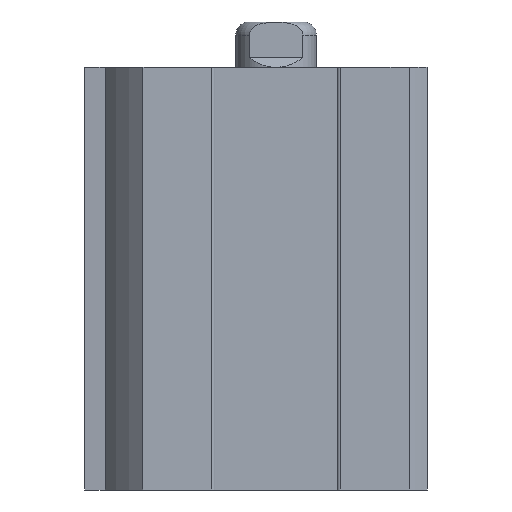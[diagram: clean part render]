
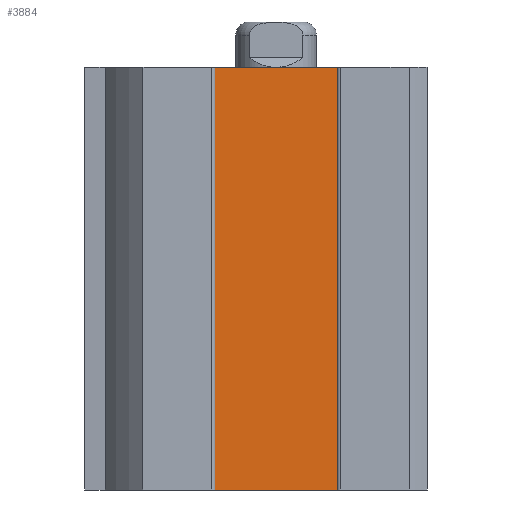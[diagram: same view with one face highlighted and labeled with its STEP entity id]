
A CAD part, left-side view. The second image highlights one B-rep face of the part: STEP entity #3884.
In plain terms, the highlighted planar face has unit normal (-1, 0, 0).
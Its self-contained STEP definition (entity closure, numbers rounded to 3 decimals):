
#118=PLANE('',#4129);
#209=LINE('',#5598,#375);
#210=LINE('',#5600,#376);
#211=LINE('',#5602,#377);
#212=LINE('',#5604,#378);
#375=VECTOR('',#4608,1000.);
#376=VECTOR('',#4611,1000.);
#377=VECTOR('',#4612,1000.);
#378=VECTOR('',#4613,1000.);
#606=ORIENTED_EDGE('',*,*,#1350,.T.);
#607=ORIENTED_EDGE('',*,*,#1349,.F.);
#608=ORIENTED_EDGE('',*,*,#1351,.T.);
#609=ORIENTED_EDGE('',*,*,#1352,.T.);
#1349=EDGE_CURVE('',#1726,#1725,#209,.T.);
#1350=EDGE_CURVE('',#1727,#1725,#210,.T.);
#1351=EDGE_CURVE('',#1726,#1728,#211,.T.);
#1352=EDGE_CURVE('',#1728,#1727,#212,.T.);
#1725=VERTEX_POINT('',#5595);
#1726=VERTEX_POINT('',#5597);
#1727=VERTEX_POINT('',#5601);
#1728=VERTEX_POINT('',#5603);
#2209=EDGE_LOOP('',(#606,#607,#608,#609));
#2494=FACE_BOUND('',#2209,.T.);
#3884=ADVANCED_FACE('',(#2494),#118,.T.);
#4129=AXIS2_PLACEMENT_3D('',#5599,#4609,#4610);
#4608=DIRECTION('',(0.,0.,1.));
#4609=DIRECTION('',(-1.,0.,0.));
#4610=DIRECTION('',(0.,0.,1.));
#4611=DIRECTION('',(0.,1.,0.));
#4612=DIRECTION('',(0.,-1.,0.));
#4613=DIRECTION('',(0.,0.,1.));
#5595=CARTESIAN_POINT('',(-10.,6.124,42.));
#5597=CARTESIAN_POINT('',(-10.,6.124,0.));
#5598=CARTESIAN_POINT('',(-10.,6.124,0.));
#5599=CARTESIAN_POINT('',(-10.,-6.124,0.));
#5600=CARTESIAN_POINT('',(-10.,-6.124,42.));
#5601=CARTESIAN_POINT('',(-10.,-6.124,42.));
#5602=CARTESIAN_POINT('',(-10.,6.124,0.));
#5603=CARTESIAN_POINT('',(-10.,-6.124,0.));
#5604=CARTESIAN_POINT('',(-10.,-6.124,0.));
